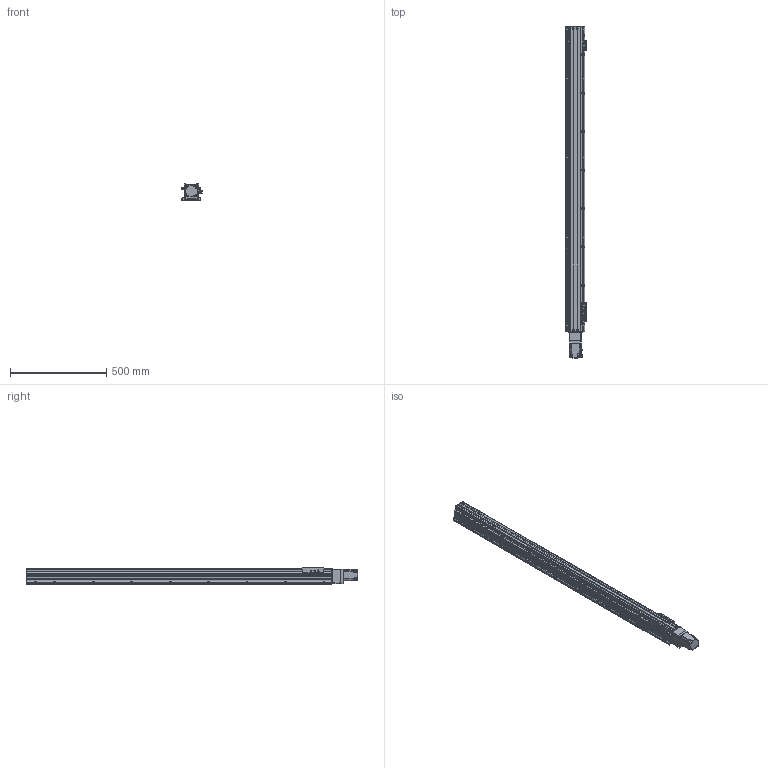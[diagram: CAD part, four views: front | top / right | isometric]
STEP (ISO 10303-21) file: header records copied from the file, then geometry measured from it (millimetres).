
FILE_DESCRIPTION(/* description */ ('MANUFACTURE'),/* implementation_level */ '2;1');
FILE_NAME(/* name */ '\\192.168.0.160\disk1\HAN SHIN Master\B-설계부문\C-표준\B-2024년\BC02-표준도면\+로봇 개선표준도면\표준 승인도 폴더 - 재작업\3D\HS Type\HS75\S-Type\HS75-S20-N1B-1400-R10.stp',/* time_stamp */ '2024-05-08T15:14:57+09:00',/* author */ ('User'),/* organization */ (''),/* preprocessor_version */ 'ST-DEVELOPER v18.1',/* originating_system */ 'Autodesk Inventor 2022',/* authorisation */ 'LIP');
FILE_SCHEMA (('AUTOMOTIVE_DESIGN { 1 0 10303 214 3 1 1 }'));
Products named in the file (28): HS75-S20-N1B-0500-R10 - 간소화; HS75 100W S BASE; UPCOVER; HS75 REAR BLOCK; SDWA-31C-10x14(00-00); HS75 FRONT BLOCK-AN; HS75 FRONT BLOCK; 7001ADF; BEARING COVER(∅15); SPACER(∅15); RN12; HS75 FRONT COVER; HS75 FRONT COVER_1; COUPLING COVER; HS75 SIDE COVER; HS75 SENSOR DOG-1; NIPPLE CAP(신규); hsr_ftht_A-M6F_grease_nipple_joint; SENSOR BRK(EE-SX674A); EE_SX674A; M3-5(렌치볼트); HG75 S MOTOR PLATE-B; HG75 S MOTOR PLATE-M; hg-kr23_; HG90STOPPER - 17L; LMKE1520 NUT; HS75 TABLE - 1BLOCK; HS75 SIDE COVER (100W, 1B)_MIR
Assembly tree (37 placements, depth 3):
  HS75-S20-N1B-0500-R10 - 간소화
    HS75 100W S BASE
    UPCOVER
    HS75 REAR BLOCK
    SDWA-31C-10x14(00-00)
    HS75 FRONT BLOCK-AN
      HS75 FRONT BLOCK
      7001ADF
      BEARING COVER(∅15)
      SPACER(∅15)
      RN12
    HS75 FRONT COVER
    HS75 FRONT COVER_1
    HG90STOPPER - 17L  x2
    COUPLING COVER
    SENSOR BRK(EE-SX674A)  x3
    EE_SX674A  x3
    hsr_ftht_A-M6F_grease_nipple_joint  x2
    NIPPLE CAP(신규)  x2
    HS75 SIDE COVER
    HS75 SENSOR DOG-1
    M3-5(렌치볼트)  x4
    HG75 S MOTOR PLATE-B
    HG75 S MOTOR PLATE-M
    hg-kr23_
    LMKE1520 NUT
    HS75 TABLE - 1BLOCK
    HS75 SIDE COVER (100W, 1B)_MIR
Bounding box: 105.96 x 1725.6 x 85 mm (x, y, z)
Volume: 4019261.9 mm3; surface area: 1394903.9 mm2
Topology: 59 solids, 59 shells, 2253 faces, 6335 edges, 4133 vertices
Faces by surface type: plane 1118, cylinder 795, cone 220, torus 74, sphere 38, bspline 8
Full cylindrical faces by diameter (mm): 2.013 x2, 2.459 x20, 2.85 x4, 3 x12, 3.1 x1, 3.242 x56, 3.3 x2, 3.5 x6, 4 x18, 4.134 x48, 4.5 x49, 4.917 x19, 5 x28, 5.5 x16, 5.6 x10, 5.8 x4, 5.9 x10, 6 x6, 6.05 x4, 6.45 x6, 6.5 x4, 7.2 x2, 7.5 x4, 8 x7, 9.5 x10, 10 x1, 10.8 x1, 12 x3, 14 x2, 14.4 x3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
Entity records: 68192 total; most frequent: CARTESIAN_POINT 14513, DIRECTION 11214, ORIENTED_EDGE 10858, EDGE_CURVE 5429, AXIS2_PLACEMENT_3D 4149, VERTEX_POINT 3699, LINE 2916, VECTOR 2916
